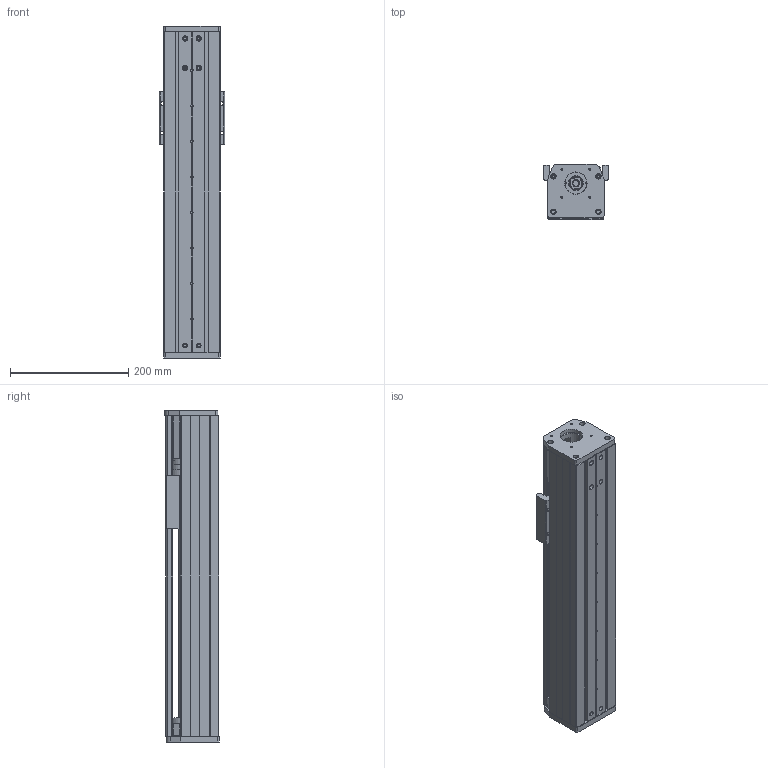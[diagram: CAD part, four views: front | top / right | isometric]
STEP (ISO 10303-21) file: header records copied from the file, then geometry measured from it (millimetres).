
FILE_DESCRIPTION (( 'STEP AP203' ), '1' );
FILE_NAME ('CF95-1-P300.STEP', '2016-02-23T03:20:15', ( 'Sky123.Org' ), ( 'Sky123.Org' ), 'SwSTEP 2.0', 'SolidWorks 2015', '' );
FILE_SCHEMA (( 'CONFIG_CONTROL_DESIGN' ));
Length unit declared in the file: millimetre
Products named in the file (18): 95裔啣-1-750; SFU1605-3; 95臏倰第-1-750; 95賑輸; CF-HGR20絳寢-750; deep groove ball bearings gb_Rolling bearings 6001 GB 276-94; SFS1605-750; angular contact ball bearings gb_Rolling bearings S7001 GB 292-94; CF95-57步进电机座（配30-42联轴器）; 坶踡蹟譫M12-1; CF95固定座（配30-42联轴器）; 95耜啣; CF-HGW20CA; CF95-1-P300; circlips for shaft--type a large gb_GB_CONNECTING_PIECE_RING_RRA 12; 95滅袉蝶菜; 95盓厥傷; 95粣創裔啣
Assembly tree (19 placements, depth 2):
  CF95-1-P300
    CF-HGW20CA
    95滅袉蝶菜  x2
    95粣創裔啣
    SFU1605-3
    95賑輸
    deep groove ball bearings gb_Rolling bearings 6001 GB 276-94
    angular contact ball bearings gb_Rolling bearings S7001 GB 292-94  x2
    坶踡蹟譫M12-1
    95耜啣
    circlips for shaft--type a large gb_GB_CONNECTING_PIECE_RING_RRA 12
    95盓厥傷
    95裔啣-1-750
    95臏倰第-1-750
    CF-HGR20絳寢-750
    SFS1605-750
    CF95-57步进电机座（配30-42联轴器）
    CF95固定座（配30-42联轴器）
Bounding box: 110 x 92.9 x 561 mm (x, y, z)
Volume: 2195707.2 mm3; surface area: 676408.7 mm2
Topology: 19 solids, 19 shells, 1053 faces, 3494 edges, 2335 vertices
Faces by surface type: cylinder 419, plane 386, torus 159, sphere 84, cone 4, bspline 1
Entity records: 38743 total; most frequent: CARTESIAN_POINT 11201, ORIENTED_EDGE 5632, DIRECTION 5202, EDGE_CURVE 2816, AXIS2_PLACEMENT_3D 1989, VERTEX_POINT 1878, VECTOR 1224, LINE 1224
